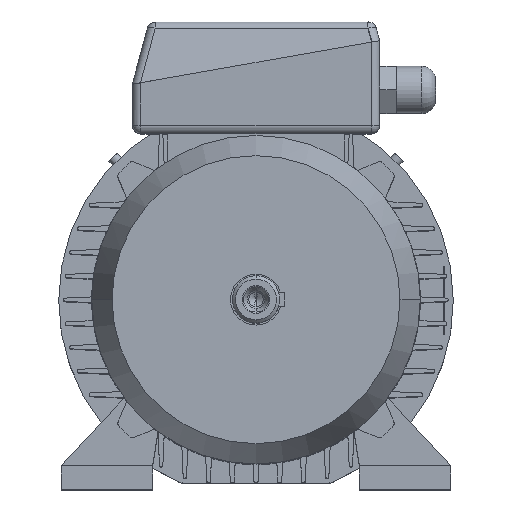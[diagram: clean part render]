
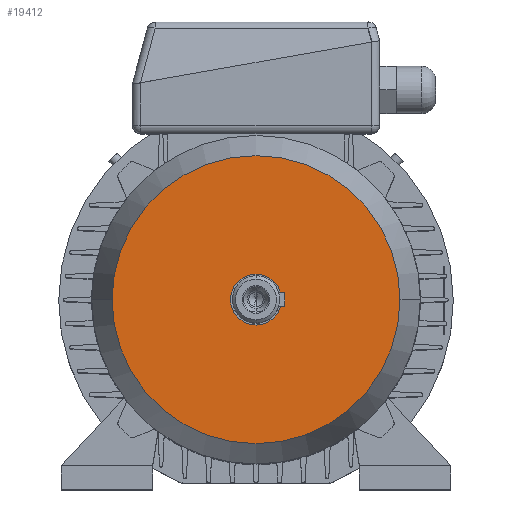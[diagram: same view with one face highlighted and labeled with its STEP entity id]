
A CAD part, top view. The second image highlights one B-rep face of the part: STEP entity #19412.
In plain terms, the highlighted planar face has unit normal (0, 0, 1).
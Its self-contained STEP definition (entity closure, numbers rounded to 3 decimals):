
#44 = EDGE_CURVE ( 'NONE', #20642, #20376, #11895, .T. ) ;
#796 = CIRCLE ( 'NONE', #797, 85. ) ;
#797 = AXIS2_PLACEMENT_3D ( 'NONE', #798, #799, #800 ) ;
#798 = CARTESIAN_POINT ( 'NONE',  ( 0., 0., 43. ) ) ;
#799 = DIRECTION ( 'NONE',  ( 0., 0., -1. ) ) ;
#800 = DIRECTION ( 'NONE',  ( -1., 0., 0. ) ) ;
#19412 = ADVANCED_FACE ( 'NONE', ( #9671 ), #9672, .T. ) ;
#20376 = VERTEX_POINT ( 'NONE', #10312 ) ;
#20642 = VERTEX_POINT ( 'NONE', #10689 ) ;
#20772 = EDGE_LOOP ( 'NONE', ( #15938, #12430 ) ) ;
#9671 = FACE_OUTER_BOUND ( 'NONE', #20772, .T. ) ;
#9672 = PLANE ( 'NONE',  #9673 ) ;
#9673 = AXIS2_PLACEMENT_3D ( 'NONE', #9684, #9685, #9686 ) ;
#9684 = CARTESIAN_POINT ( 'NONE',  ( 0., 85., 43. ) ) ;
#9685 = DIRECTION ( 'NONE',  ( 0., 0., 1. ) ) ;
#9686 = DIRECTION ( 'NONE',  ( 1., 0., 0. ) ) ;
#10312 = CARTESIAN_POINT ( 'NONE',  ( 85., 0., 43. ) ) ;
#10689 = CARTESIAN_POINT ( 'NONE',  ( -85., 0., 43. ) ) ;
#11376 = EDGE_CURVE ( 'NONE', #20376, #20642, #796, .T. ) ;
#11895 = CIRCLE ( 'NONE', #11896, 85. ) ;
#11896 = AXIS2_PLACEMENT_3D ( 'NONE', #11897, #11898, #11899 ) ;
#11897 = CARTESIAN_POINT ( 'NONE',  ( 0., 0., 43. ) ) ;
#11898 = DIRECTION ( 'NONE',  ( 0., 0., -1. ) ) ;
#11899 = DIRECTION ( 'NONE',  ( -1., 0., 0. ) ) ;
#12430 = ORIENTED_EDGE ( 'NONE', *, *, #11376, .F. ) ;
#15938 = ORIENTED_EDGE ( 'NONE', *, *, #44, .F. ) ;
